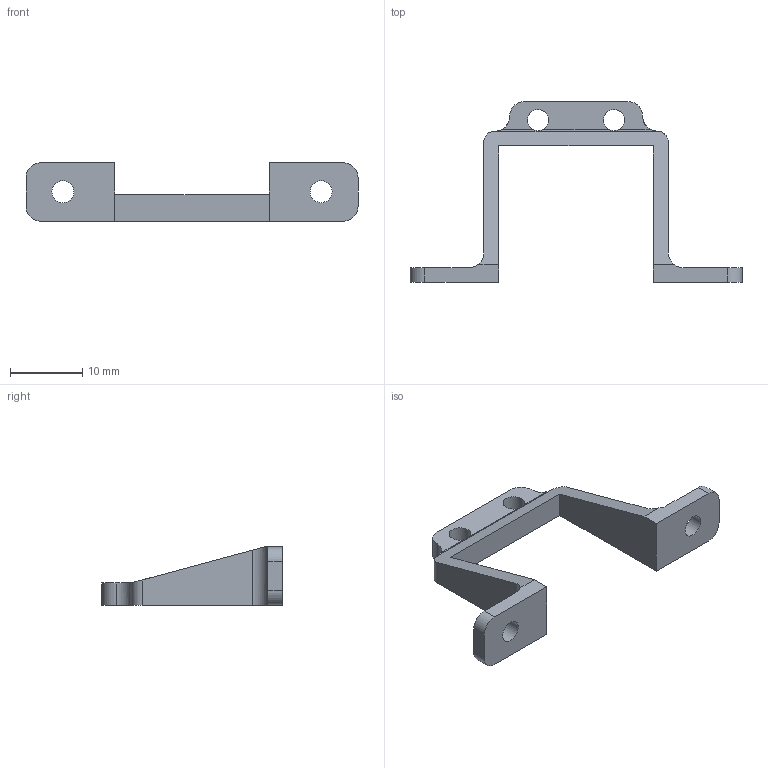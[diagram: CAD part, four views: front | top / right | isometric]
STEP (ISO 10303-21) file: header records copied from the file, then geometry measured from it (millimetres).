
FILE_DESCRIPTION(/* description */ ('STEP AP242 Edition 2','CAx-IF Rec.Pracs.---Representation and Presentation of Product Manufacturing Information (PMI)---4.0---2014-10-13','CAx-IF Rec.Pracs.---3D Tessellated Geometry---0.4---2014-09-14','2;1','CAx-IF Rec.Pracs.---User Defined Attributes---1.5---2016-08-15'),/* implementation_level */ '2;1');
FILE_NAME(/* name */ 'Main Assembly - Part 11 (1)',/* time_stamp */ '2026-06-22T17:37:58Z',/* author */ (''),/* organization */ (''),/* preprocessor_version */ 'ST-DEVELOPER v20',/* originating_system */ 'ONSHAPE BY PTC INC, 1.216',/* authorisation */ ' ');
FILE_SCHEMA (('AP242_MANAGED_MODEL_BASED_3D_ENGINEERING_MIM_LF { 1 0 10303 442 3 1 4 }'));
Length unit declared in the file: metre
Products named in the file (1): Part 11
Bounding box: 45.99 x 25.05 x 8.07 mm (x, y, z)
Volume: 1152.6 mm3; surface area: 1518.8 mm2
Topology: 1 solids, 1 shells, 40 faces, 121 edges, 81 vertices
Faces by surface type: plane 24, cylinder 16
Full cylindrical faces by diameter (mm): 2.954 x1, 2.956 x1, 3.057 x1, 3.06 x1
Entity records: 1364 total; most frequent: DIRECTION 236, CARTESIAN_POINT 233, ORIENTED_EDGE 228, EDGE_CURVE 114, AXIS2_PLACEMENT_3D 81, VERTEX_POINT 78, LINE 74, VECTOR 74
